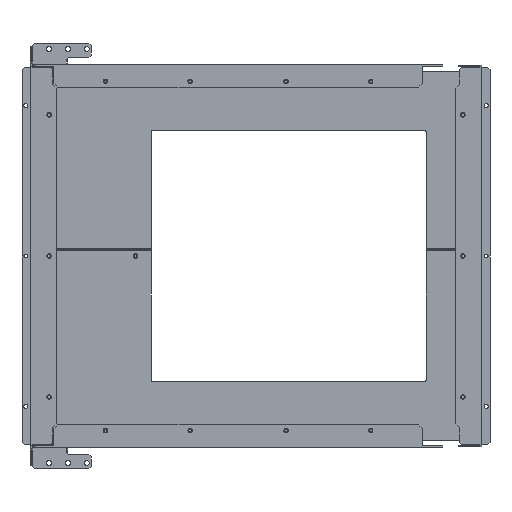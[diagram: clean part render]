
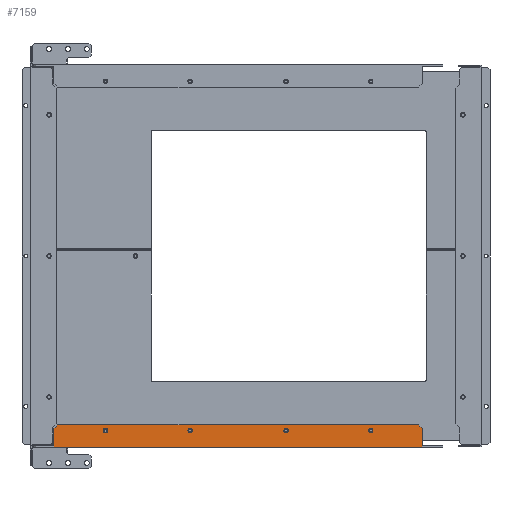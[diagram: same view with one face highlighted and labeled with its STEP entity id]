
A CAD part, left-side view. The second image highlights one B-rep face of the part: STEP entity #7159.
In plain terms, the highlighted planar face has unit normal (-1, 0, 0).
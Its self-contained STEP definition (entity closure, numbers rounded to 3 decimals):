
#483 = DIRECTION ( 'NONE',  ( -1., 0., 0. ) ) ;
#2375 = LINE ( 'NONE', #66528, #76124 ) ;
#3305 = ORIENTED_EDGE ( 'NONE', *, *, #65488, .F. ) ;
#4695 = CIRCLE ( 'NONE', #47944, 3. ) ;
#5450 = VERTEX_POINT ( 'NONE', #69566 ) ;
#6406 = CARTESIAN_POINT ( 'NONE',  ( -158., -75., -232. ) ) ;
#7159 = ADVANCED_FACE ( 'NONE', ( #71939, #34322, #9822, #79757, #66132 ), #41122, .F. ) ;
#7370 = LINE ( 'NONE', #30868, #49210 ) ;
#7787 = VERTEX_POINT ( 'NONE', #64232 ) ;
#7957 = VERTEX_POINT ( 'NONE', #82451 ) ;
#9189 = VERTEX_POINT ( 'NONE', #24742 ) ;
#9822 = FACE_BOUND ( 'NONE', #52796, .T. ) ;
#9823 = VERTEX_POINT ( 'NONE', #13998 ) ;
#9991 = DIRECTION ( 'NONE',  ( 0., 0.707, -0.707 ) ) ;
#10547 = CIRCLE ( 'NONE', #77231, 3. ) ;
#11535 = LINE ( 'NONE', #12045, #66422 ) ;
#12045 = CARTESIAN_POINT ( 'NONE',  ( -158., -496., -251.5 ) ) ;
#12148 = ORIENTED_EDGE ( 'NONE', *, *, #18448, .F. ) ;
#13998 = CARTESIAN_POINT ( 'NONE',  ( -158., -72.857, -234.1 ) ) ;
#14563 = CARTESIAN_POINT ( 'NONE',  ( -158., -313.404, -234.54 ) ) ;
#14611 = ORIENTED_EDGE ( 'NONE', *, *, #90774, .F. ) ;
#14816 = CARTESIAN_POINT ( 'NONE',  ( -158., -187.5, -232. ) ) ;
#16474 = AXIS2_PLACEMENT_3D ( 'NONE', #84587, #59557, #61102 ) ;
#16865 = LINE ( 'NONE', #96645, #98908 ) ;
#17702 = ORIENTED_EDGE ( 'NONE', *, *, #58181, .F. ) ;
#18448 = EDGE_CURVE ( 'NONE', #42575, #7787, #11535, .T. ) ;
#18892 = CARTESIAN_POINT ( 'NONE',  ( -158., -11.5, -224.5 ) ) ;
#21012 = ORIENTED_EDGE ( 'NONE', *, *, #38595, .T. ) ;
#21479 = AXIS2_PLACEMENT_3D ( 'NONE', #31400, #23576, #55379 ) ;
#22412 = CARTESIAN_POINT ( 'NONE',  ( -158., -496., -251.5 ) ) ;
#23576 = DIRECTION ( 'NONE',  ( -1., 0., 0. ) ) ;
#23708 = ORIENTED_EDGE ( 'NONE', *, *, #68496, .T. ) ;
#24203 = VERTEX_POINT ( 'NONE', #43403 ) ;
#24742 = CARTESIAN_POINT ( 'NONE',  ( -158., -6.5, -254. ) ) ;
#25169 = LINE ( 'NONE', #56978, #94553 ) ;
#25654 = CARTESIAN_POINT ( 'NONE',  ( -158., -116.625, -119.375 ) ) ;
#26203 = DIRECTION ( 'NONE',  ( 0., 1., 0. ) ) ;
#27828 = CARTESIAN_POINT ( 'NONE',  ( -158., -427.5, -232. ) ) ;
#28180 = CARTESIAN_POINT ( 'NONE',  ( -158., -496., -254. ) ) ;
#28950 = VERTEX_POINT ( 'NONE', #82670 ) ;
#29873 = VERTEX_POINT ( 'NONE', #93374 ) ;
#30196 = CARTESIAN_POINT ( 'NONE',  ( -158., -6.5, -229.5 ) ) ;
#30463 = DIRECTION ( 'NONE',  ( -1., 0., 0. ) ) ;
#30868 = CARTESIAN_POINT ( 'NONE',  ( -158., -251.25, -224.5 ) ) ;
#31400 = CARTESIAN_POINT ( 'NONE',  ( -158., -187.5, -232. ) ) ;
#31710 = DIRECTION ( 'NONE',  ( 0., 1., 0. ) ) ;
#31979 = EDGE_CURVE ( 'NONE', #34006, #82163, #99708, .T. ) ;
#32065 = EDGE_CURVE ( 'NONE', #42575, #29873, #74608, .T. ) ;
#32218 = DIRECTION ( 'NONE',  ( -1., 0., 0. ) ) ;
#32730 = CARTESIAN_POINT ( 'NONE',  ( -158., -75., -232. ) ) ;
#32941 = EDGE_CURVE ( 'NONE', #9823, #28950, #4695, .T. ) ;
#33521 = DIRECTION ( 'NONE',  ( 0., 0.707, 0.707 ) ) ;
#34006 = VERTEX_POINT ( 'NONE', #46801 ) ;
#34322 = FACE_BOUND ( 'NONE', #46037, .T. ) ;
#35022 = LINE ( 'NONE', #25654, #87254 ) ;
#37185 = DIRECTION ( 'NONE',  ( -1., 0., 0. ) ) ;
#37700 = DIRECTION ( 'NONE',  ( 0., 1., 0. ) ) ;
#38595 = EDGE_CURVE ( 'NONE', #99914, #46884, #35022, .T. ) ;
#39341 = ORIENTED_EDGE ( 'NONE', *, *, #102001, .F. ) ;
#40141 = CARTESIAN_POINT ( 'NONE',  ( -158., -427.5, -232. ) ) ;
#40521 = AXIS2_PLACEMENT_3D ( 'NONE', #40141, #483, #54249 ) ;
#41122 = PLANE ( 'NONE',  #76374 ) ;
#41833 = ORIENTED_EDGE ( 'NONE', *, *, #52911, .T. ) ;
#42575 = VERTEX_POINT ( 'NONE', #22412 ) ;
#43027 = VECTOR ( 'NONE', #66271, 1000. ) ;
#43403 = CARTESIAN_POINT ( 'NONE',  ( -158., -428.646, -229.227 ) ) ;
#43877 = DIRECTION ( 'NONE',  ( -1., 0., 0. ) ) ;
#46037 = EDGE_LOOP ( 'NONE', ( #47029, #3305 ) ) ;
#46801 = CARTESIAN_POINT ( 'NONE',  ( -158., -189.437, -229.709 ) ) ;
#46884 = VERTEX_POINT ( 'NONE', #30196 ) ;
#47029 = ORIENTED_EDGE ( 'NONE', *, *, #69851, .F. ) ;
#47944 = AXIS2_PLACEMENT_3D ( 'NONE', #6406, #37185, #37700 ) ;
#48440 = CARTESIAN_POINT ( 'NONE',  ( -158., -251.25, -254. ) ) ;
#49210 = VECTOR ( 'NONE', #94991, 1000. ) ;
#50335 = DIRECTION ( 'NONE',  ( 0., 0., -1. ) ) ;
#50544 = CIRCLE ( 'NONE', #40521, 3. ) ;
#52796 = EDGE_LOOP ( 'NONE', ( #100648, #82949 ) ) ;
#52911 = EDGE_CURVE ( 'NONE', #92788, #99914, #7370, .T. ) ;
#54039 = EDGE_CURVE ( 'NONE', #82163, #34006, #84354, .T. ) ;
#54249 = DIRECTION ( 'NONE',  ( 0., 1., 0. ) ) ;
#54919 = ORIENTED_EDGE ( 'NONE', *, *, #32065, .T. ) ;
#55379 = DIRECTION ( 'NONE',  ( 0., 1., 0. ) ) ;
#56925 = AXIS2_PLACEMENT_3D ( 'NONE', #32730, #32218, #31710 ) ;
#56978 = CARTESIAN_POINT ( 'NONE',  ( -158., -385.875, -119.375 ) ) ;
#58019 = CARTESIAN_POINT ( 'NONE',  ( -158., -6.5, -251.5 ) ) ;
#58181 = EDGE_CURVE ( 'NONE', #28950, #9823, #101919, .T. ) ;
#58469 = CIRCLE ( 'NONE', #81766, 3. ) ;
#58646 = EDGE_LOOP ( 'NONE', ( #82065, #12148, #54919, #65996, #41833, #21012, #76377, #23708 ) ) ;
#59557 = DIRECTION ( 'NONE',  ( -1., 0., 0. ) ) ;
#60530 = CARTESIAN_POINT ( 'NONE',  ( -158., -491., -224.5 ) ) ;
#61102 = DIRECTION ( 'NONE',  ( 0., 1., 0. ) ) ;
#62082 = ORIENTED_EDGE ( 'NONE', *, *, #32941, .F. ) ;
#62248 = DIRECTION ( 'NONE',  ( 0., 1., 0. ) ) ;
#63587 = LINE ( 'NONE', #70416, #85265 ) ;
#63779 = EDGE_CURVE ( 'NONE', #46884, #81002, #2375, .T. ) ;
#63947 = CARTESIAN_POINT ( 'NONE',  ( -158., -185.563, -234.291 ) ) ;
#64232 = CARTESIAN_POINT ( 'NONE',  ( -158., -496., -254. ) ) ;
#65111 = DIRECTION ( 'NONE',  ( 0., 0., 1. ) ) ;
#65488 = EDGE_CURVE ( 'NONE', #5450, #71540, #94735, .T. ) ;
#65996 = ORIENTED_EDGE ( 'NONE', *, *, #98682, .T. ) ;
#66132 = FACE_OUTER_BOUND ( 'NONE', #58646, .T. ) ;
#66271 = DIRECTION ( 'NONE',  ( 0., 0., 1. ) ) ;
#66422 = VECTOR ( 'NONE', #97093, 1000. ) ;
#66528 = CARTESIAN_POINT ( 'NONE',  ( -158., -6.5, -254. ) ) ;
#68496 = EDGE_CURVE ( 'NONE', #81002, #9189, #63587, .T. ) ;
#69566 = CARTESIAN_POINT ( 'NONE',  ( -158., -316.596, -229.46 ) ) ;
#69851 = EDGE_CURVE ( 'NONE', #71540, #5450, #10547, .T. ) ;
#70416 = CARTESIAN_POINT ( 'NONE',  ( -158., -6.5, -251.5 ) ) ;
#71540 = VERTEX_POINT ( 'NONE', #14563 ) ;
#71939 = FACE_BOUND ( 'NONE', #91847, .T. ) ;
#74608 = LINE ( 'NONE', #28180, #43027 ) ;
#75303 = DIRECTION ( 'NONE',  ( 0., 1., 0. ) ) ;
#76124 = VECTOR ( 'NONE', #50335, 1000. ) ;
#76374 = AXIS2_PLACEMENT_3D ( 'NONE', #48440, #97954, #65111 ) ;
#76377 = ORIENTED_EDGE ( 'NONE', *, *, #63779, .T. ) ;
#77231 = AXIS2_PLACEMENT_3D ( 'NONE', #91364, #43877, #99173 ) ;
#79757 = FACE_BOUND ( 'NONE', #82436, .T. ) ;
#80988 = EDGE_CURVE ( 'NONE', #7787, #9189, #16865, .T. ) ;
#81002 = VERTEX_POINT ( 'NONE', #58019 ) ;
#81766 = AXIS2_PLACEMENT_3D ( 'NONE', #27828, #92493, #75303 ) ;
#82065 = ORIENTED_EDGE ( 'NONE', *, *, #80988, .F. ) ;
#82163 = VERTEX_POINT ( 'NONE', #63947 ) ;
#82436 = EDGE_LOOP ( 'NONE', ( #62082, #17702 ) ) ;
#82451 = CARTESIAN_POINT ( 'NONE',  ( -158., -426.354, -234.773 ) ) ;
#82670 = CARTESIAN_POINT ( 'NONE',  ( -158., -77.143, -229.9 ) ) ;
#82949 = ORIENTED_EDGE ( 'NONE', *, *, #31979, .F. ) ;
#84354 = CIRCLE ( 'NONE', #89394, 3. ) ;
#84587 = CARTESIAN_POINT ( 'NONE',  ( -158., -315., -232. ) ) ;
#85265 = VECTOR ( 'NONE', #101727, 1000. ) ;
#87254 = VECTOR ( 'NONE', #9991, 1000. ) ;
#89394 = AXIS2_PLACEMENT_3D ( 'NONE', #14816, #30463, #62248 ) ;
#90774 = EDGE_CURVE ( 'NONE', #24203, #7957, #50544, .T. ) ;
#91364 = CARTESIAN_POINT ( 'NONE',  ( -158., -315., -232. ) ) ;
#91847 = EDGE_LOOP ( 'NONE', ( #39341, #14611 ) ) ;
#92493 = DIRECTION ( 'NONE',  ( -1., 0., 0. ) ) ;
#92788 = VERTEX_POINT ( 'NONE', #60530 ) ;
#93374 = CARTESIAN_POINT ( 'NONE',  ( -158., -496., -229.5 ) ) ;
#94553 = VECTOR ( 'NONE', #33521, 1000. ) ;
#94735 = CIRCLE ( 'NONE', #16474, 3. ) ;
#94991 = DIRECTION ( 'NONE',  ( 0., 1., 0. ) ) ;
#96645 = CARTESIAN_POINT ( 'NONE',  ( -158., -251.25, -254. ) ) ;
#97093 = DIRECTION ( 'NONE',  ( 0., 0., -1. ) ) ;
#97954 = DIRECTION ( 'NONE',  ( 1., 0., 0. ) ) ;
#98682 = EDGE_CURVE ( 'NONE', #29873, #92788, #25169, .T. ) ;
#98908 = VECTOR ( 'NONE', #26203, 1000. ) ;
#99173 = DIRECTION ( 'NONE',  ( 0., 1., 0. ) ) ;
#99708 = CIRCLE ( 'NONE', #21479, 3. ) ;
#99914 = VERTEX_POINT ( 'NONE', #18892 ) ;
#100648 = ORIENTED_EDGE ( 'NONE', *, *, #54039, .F. ) ;
#101727 = DIRECTION ( 'NONE',  ( 0., 0., -1. ) ) ;
#101919 = CIRCLE ( 'NONE', #56925, 3. ) ;
#102001 = EDGE_CURVE ( 'NONE', #7957, #24203, #58469, .T. ) ;
